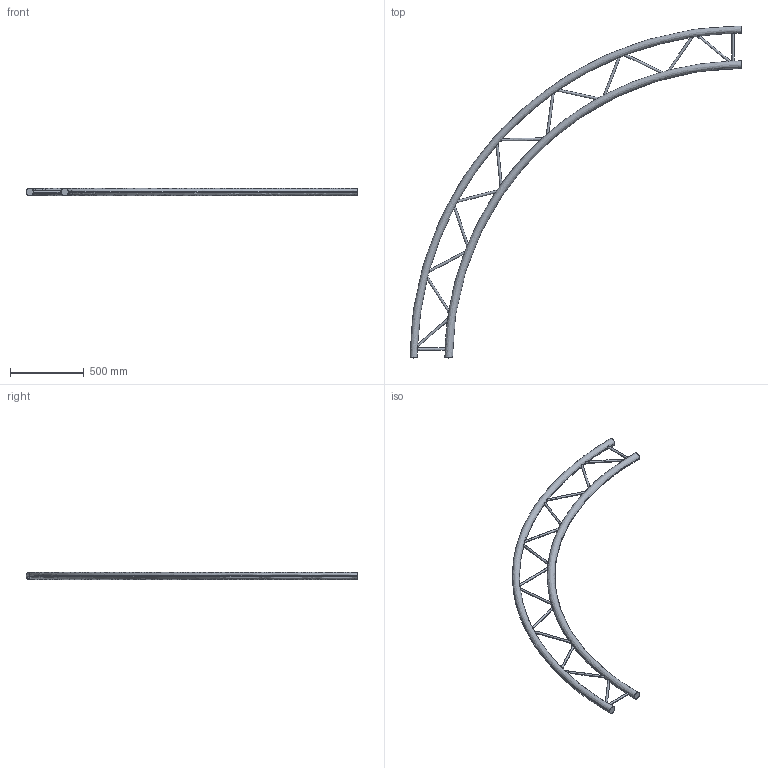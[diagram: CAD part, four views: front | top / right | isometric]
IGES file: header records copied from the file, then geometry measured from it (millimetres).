
Start section: SolidWorks IGES file using analytic representation for surfaces
Global section: file name: K:\BIBLIO\asd_biblio\EX290\Cercles\EXC290H\EXC29450H\EXC29450H.IGS; native system: SolidWorks 2009; preprocessor: SolidWorks 2009; author: des3; date: 091026.103519; units: millimetre
Bounding box: 2250 x 2250 x 50 mm (x, y, z)
Surface area: 1235413.3 mm2 (no closed solid volume)
Topology: 0 solids, 0 shells, 38 faces, 2665 edges, 2665 vertices
Faces by surface type: revolution 30, bspline 8
